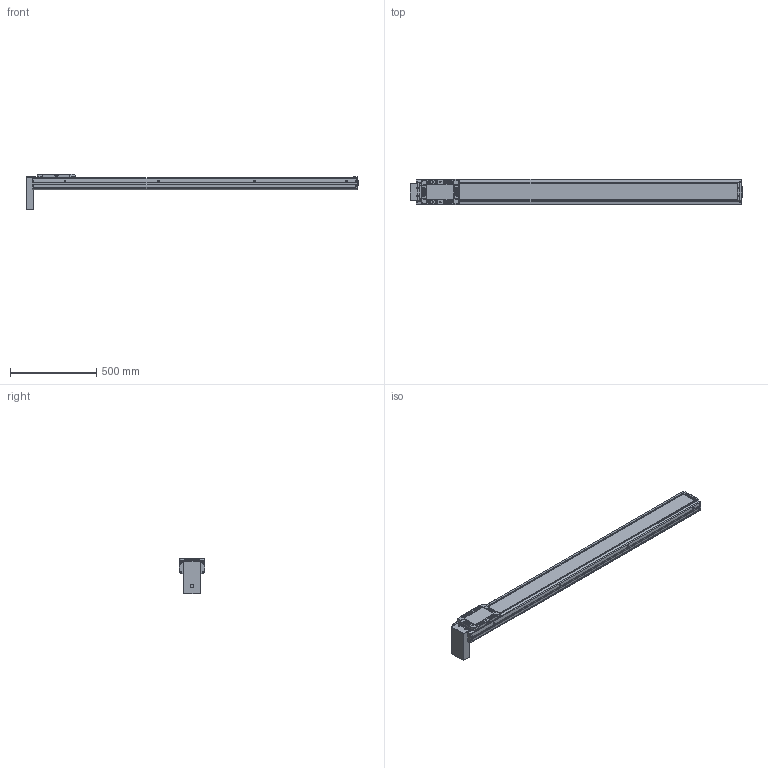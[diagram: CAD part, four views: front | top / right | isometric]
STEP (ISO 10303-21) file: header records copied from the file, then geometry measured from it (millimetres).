
FILE_DESCRIPTION(('STEP AP214'),'1');
FILE_NAME('Z:/Web/3D/SAN150/2013.04 (STP.)/SAN150ㅁㅁ-1600PB.stp','2013-05-07T08:26:23',(' '),(' '),'Spatial InterOp 3D',' ',' ');
FILE_SCHEMA(('automotive_design'));
Length unit declared in the file: millimetre
Products named in the file (44): PB; 스크루 : Round - M3.0 x 6.0; SLBL-SAN150; SLCV-SAN150; FHCS M4.0 x 8.0; BHCS M4.0 x 10.0; SFX-SAN150; RRCV-SAN150; FRBL-SAN150; Spacer; RN15; FRCV-SAN150; Screw 20; BASE-SAN150-000L ; SUS COVER; 스크루 : Round - M5.0 x 6.0
Bounding box: 1920 x 150 x 205.4 mm (x, y, z)
Volume: 10354547.6 mm3; surface area: 1819147.2 mm2
Topology: 44 solids, 44 shells, 2439 faces, 6262 edges, 3971 vertices
Faces by surface type: plane 1099, cylinder 901, cone 338, sphere 68, bspline 21, torus 12
Entity records: 97392 total; most frequent: CARTESIAN_POINT 16574, DIRECTION 13340, ORIENTED_EDGE 12220, EDGE_CURVE 6110, AXIS2_PLACEMENT_3D 4900, VERTEX_POINT 3971, LINE 3540, VECTOR 3540
